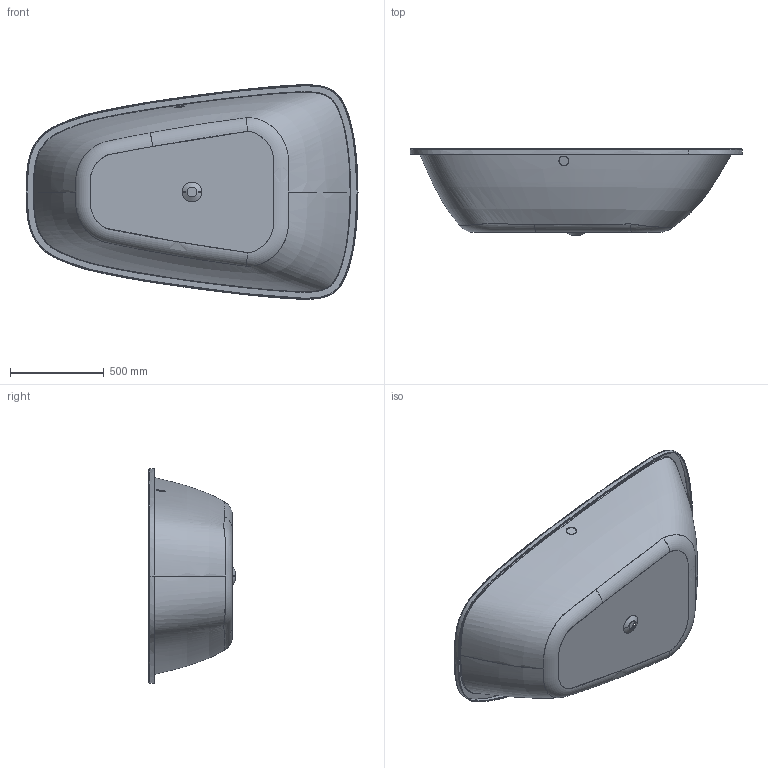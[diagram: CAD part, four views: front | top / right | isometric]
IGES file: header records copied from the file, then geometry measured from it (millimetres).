
Start section: SolidWorks IGES file using analytic representation for surfaces
Global section: file name: D:\Users\M.Szymanski\Desktop\Wanny\SINGLEBATH\03. do przegrania\WPL_SINGLEBATH_DUO_1766x1141.IGS; native system: SolidWorks 2011; preprocessor: SolidWorks 2011; author: M.Szymanski; date: 180723.074522; units: millimetre
Bounding box: 1766 x 460.21 x 1141 mm (x, y, z)
Surface area: 5859123.4 mm2 (no closed solid volume)
Topology: 0 solids, 0 shells, 57 faces, 2231 edges, 2228 vertices
Faces by surface type: bspline 41, revolution 16
